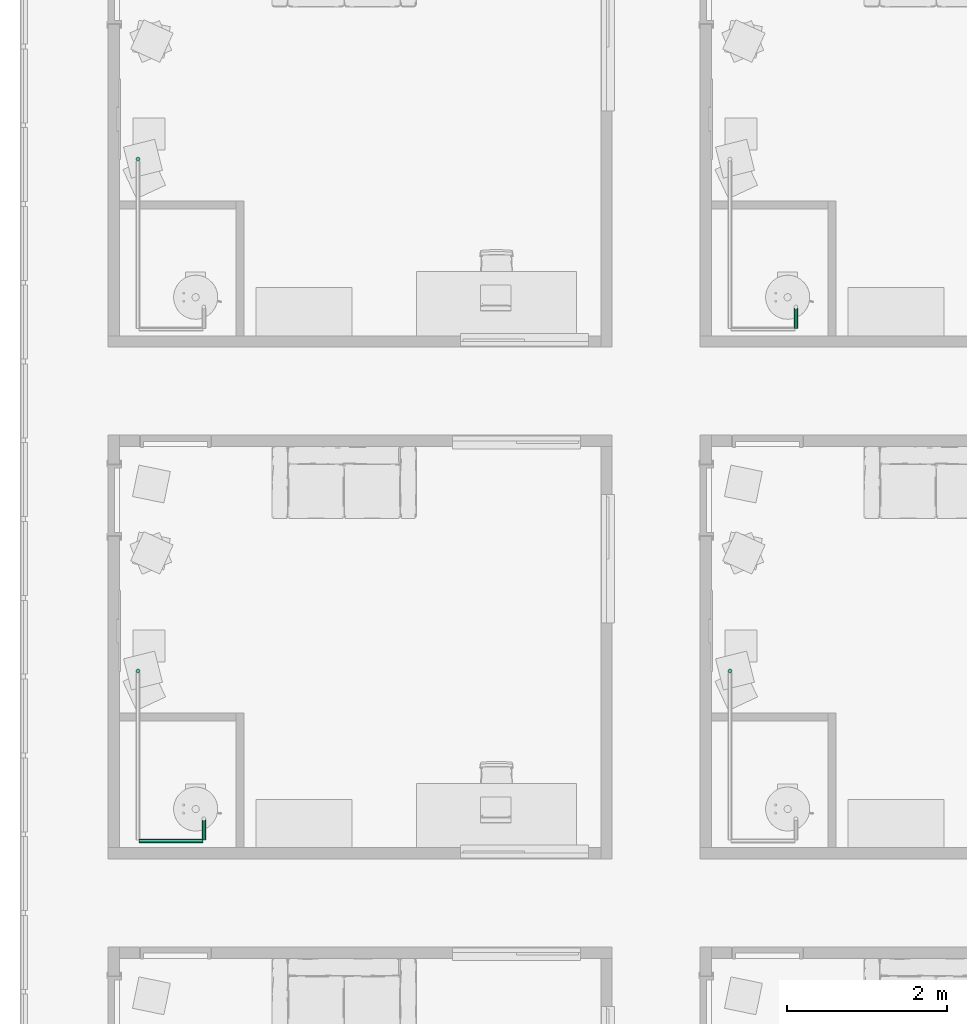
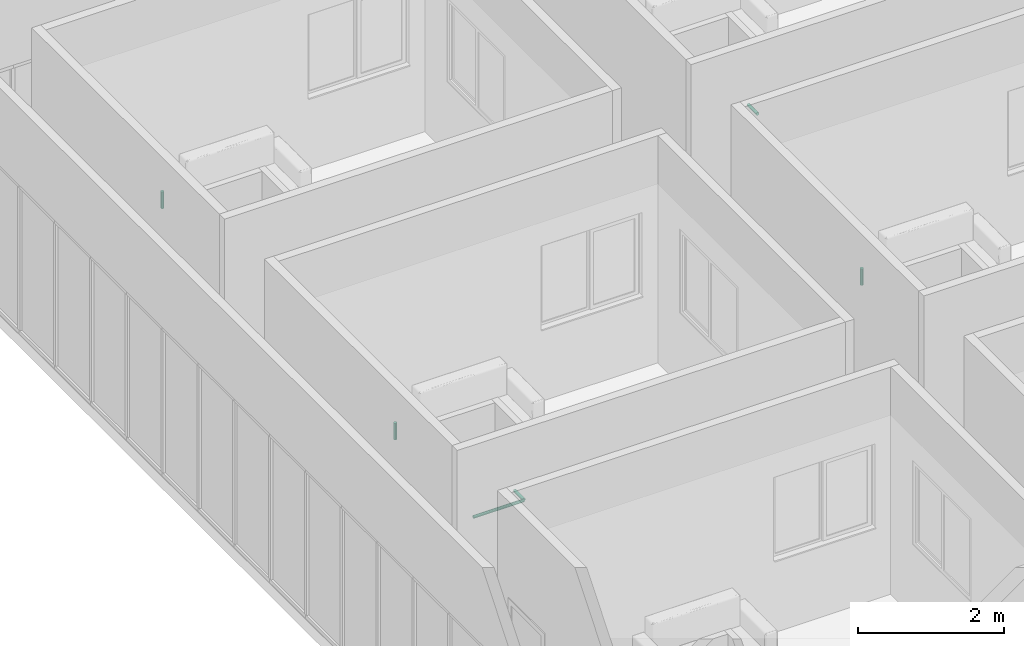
# One storey, part 46 of 71: 6 pipe segments.
"""IFC4 building model written with IfcOpenShell, lengths in centimetres."""

from ifc_helpers import new_model, entity, si_unit, converted_unit, derived_unit, direction, frame, origin, place, context, subcontext, project, spatial, arc, indexed_curve, outline, extrude, type_object, element, save


model = new_model("IFC4")

# Units and contexts
model_context = context("Model", 3, precision=0.001, world=origin(), true_north=direction((6.123233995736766e-17, 1.0)))
body_context = subcontext(model_context, "Body", "Model", "MODEL_VIEW")
ifc_project = project(units=[si_unit("LENGTHUNIT", "METRE", prefix="CENTI"), si_unit("AREAUNIT", "SQUARE_METRE"), si_unit("VOLUMEUNIT", "CUBIC_METRE"), derived_unit("THERMALTRANSMITTANCEUNIT", [(si_unit("MASSUNIT", "GRAM", prefix="KILO"), 1), (si_unit("THERMODYNAMICTEMPERATUREUNIT", "KELVIN"), -1), (si_unit("TIMEUNIT", "SECOND"), -3)]), converted_unit("PLANEANGLEUNIT", "DEGREE", entity("IfcPlaneAngleMeasure", 0.017453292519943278), si_unit("PLANEANGLEUNIT", "RADIAN"), dimensions=[0, 0, 0, 0, 0, 0, 0]), derived_unit("MASSDENSITYUNIT", [(si_unit("MASSUNIT", "GRAM", prefix="KILO"), 1), (si_unit("LENGTHUNIT", "METRE"), -3)]), derived_unit("VAPORPERMEABILITYUNIT", [(si_unit("LENGTHUNIT", "METRE"), -1), (si_unit("TIMEUNIT", "SECOND"), 1)]), derived_unit("USERDEFINED", [(si_unit("MASSUNIT", "GRAM", prefix="KILO"), 1), (si_unit("TIMEUNIT", "SECOND"), -3), (si_unit("LENGTHUNIT", "METRE"), 3), (si_unit("ELECTRICCURRENTUNIT", "AMPERE"), -2)]), derived_unit("SPECIFICHEATCAPACITYUNIT", [(si_unit("THERMODYNAMICTEMPERATUREUNIT", "KELVIN"), -1), (si_unit("LENGTHUNIT", "METRE"), 2), (si_unit("TIMEUNIT", "SECOND"), -2)]), derived_unit("THERMALCONDUCTANCEUNIT", [(si_unit("MASSUNIT", "GRAM", prefix="KILO"), 1), (si_unit("THERMODYNAMICTEMPERATUREUNIT", "KELVIN"), -1), (si_unit("TIMEUNIT", "SECOND"), -3), (si_unit("LENGTHUNIT", "METRE"), 1)]), si_unit("PRESSUREUNIT", "PASCAL"), derived_unit("MODULUSOFELASTICITYUNIT", [(si_unit("MASSUNIT", "GRAM", prefix="KILO"), 1), (si_unit("LENGTHUNIT", "METRE"), -1), (si_unit("TIMEUNIT", "SECOND"), -2)]), derived_unit("THERMALEXPANSIONCOEFFICIENTUNIT", [(si_unit("THERMODYNAMICTEMPERATUREUNIT", "KELVIN"), -1)])], contexts=[model_context])

# Site, building, storey
site_placement = place(None, origin())
site = spatial("IfcSite", under=ifc_project, at=site_placement, Name="Default", CompositionType="ELEMENT")
building_placement = place(site_placement, origin())
building = spatial("IfcBuilding", under=site, at=building_placement, Name="IDS Escape Game Building", CompositionType="ELEMENT")
storey_placement = place(building_placement, frame((0.0, 0.0, 1200.0)))
storey = spatial("IfcBuildingStorey", under=building, at=storey_placement, Name="03_Third Floor", CompositionType="ELEMENT", Elevation=1200.0)

# Pipe segments
pipe_segment_type = type_object("IfcPipeSegmentType", Name="Pipe Types:Piping Aluminum", PredefinedType="NOTDEFINED")
pipe_segment_1_placement = place(storey_placement, origin())
element("IfcPipeSegment", 1, at=pipe_segment_1_placement, inside=storey, type_object=pipe_segment_type, Name="Pipe Types:Piping Aluminum", ObjectType="Pipe Types:Piping Aluminum", PredefinedType="NOTDEFINED", context=body_context, shape_type="SweptSolid", body=[
    extrude(outline(indexed_curve([(2.412999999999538, -2.165734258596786e-13), (1.7062486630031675, 1.7062486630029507), (4.331468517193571e-13, 2.4130000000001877), (-1.706248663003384, 1.7062486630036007), (-2.4130000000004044, -2.165734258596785e-13), (-1.7062486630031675, -1.706248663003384), (4.3314685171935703e-13, -2.4129999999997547), (1.7062486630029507, -1.7062486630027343)], segments=[arc(1, 2, 3), arc(3, 4, 5), arc(5, 6, 7), arc(7, 8, 1)], self_intersect=False)), frame((31.14671687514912, 1935.2648279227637, 242.0), z_axis=(1.0, 0.0, 0.0), x_axis=(0.0, 1.0, 0.0)), (0.0, 0.0, 1.0), 79.9032831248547),
])
pipe_segment_2_placement = place(storey_placement, origin())
element("IfcPipeSegment", 2, at=pipe_segment_2_placement, inside=storey, type_object=pipe_segment_type, Name="Pipe Types:Piping Aluminum", ObjectType="Pipe Types:Piping Aluminum", PredefinedType="NOTDEFINED", context=body_context, shape_type="SweptSolid", body=[
    extrude(outline(indexed_curve([(2.412999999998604, 0.0), (1.7062486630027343, 1.7062486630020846), (1.3941914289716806e-12, 2.412999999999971), (-1.7062486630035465, 1.7062486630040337), (-2.4130000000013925, 0.0), (-1.70624866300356, -1.7062486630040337), (1.3806555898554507e-12, -2.412999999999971), (1.7062486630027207, -1.7062486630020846)], segments=[arc(1, 2, 3), arc(3, 4, 5), arc(5, 6, 7), arc(7, 8, 1)], self_intersect=False)), frame((112.15000000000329, 1936.3648279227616, 242.0), z_axis=(0.0, 1.0, 0.0), x_axis=(-1.0, 0.0, 0.0)), (0.0, 0.0, 1.0), 25.435172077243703),
])
pipe_segment_3_placement = place(storey_placement, origin())
element("IfcPipeSegment", 3, at=pipe_segment_3_placement, inside=storey, type_object=pipe_segment_type, Name="Pipe Types:Piping Aluminum", ObjectType="Pipe Types:Piping Aluminum", PredefinedType="NOTDEFINED", context=body_context, shape_type="SweptSolid", body=[
    extrude(outline(indexed_curve([(2.4130000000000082, 0.0), (1.706248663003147, 1.7062486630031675), (-3.383959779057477e-15, 2.412999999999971), (-1.7062486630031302, 1.7062486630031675), (-2.412999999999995, 0.0), (-1.7062486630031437, -1.7062486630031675), (-6.767919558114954e-15, -2.412999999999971), (1.7062486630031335, -1.7062486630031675)], segments=[arc(1, 2, 3), arc(3, 4, 5), arc(5, 6, 7), arc(7, 8, 1)], self_intersect=False)), frame((30.046716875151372, 2147.2648279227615, 244.09999999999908), z_axis=(0.0, 0.0, 1.0), x_axis=(-1.0, 0.0, 0.0)), (0.0, 0.0, 1.0), 27.90000000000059),
])
pipe_segment_4_placement = place(storey_placement, origin())
element("IfcPipeSegment", 4, at=pipe_segment_4_placement, inside=storey, type_object=pipe_segment_type, Name="Pipe Types:Piping Aluminum", ObjectType="Pipe Types:Piping Aluminum", PredefinedType="NOTDEFINED", context=body_context, shape_type="SweptSolid", body=[
    extrude(outline(indexed_curve([(2.412999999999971, 0.0), (1.7062486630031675, 1.7062486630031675), (0.0, 2.412999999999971), (-1.7062486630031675, 1.7062486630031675), (-2.412999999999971, 0.0), (-1.7062486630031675, -1.7062486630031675), (0.0, -2.412999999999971), (1.7062486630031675, -1.7062486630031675)], segments=[arc(1, 2, 3), arc(3, 4, 5), arc(5, 6, 7), arc(7, 8, 1)], self_intersect=False)), frame((768.0467168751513, 2147.264827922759, 244.09999999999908), z_axis=(0.0, 0.0, 1.0), x_axis=(-1.0, 0.0, 0.0)), (0.0, 0.0, 1.0), 27.90000000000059),
])
pipe_segment_5_placement = place(storey_placement, origin())
element("IfcPipeSegment", 5, at=pipe_segment_5_placement, inside=storey, type_object=pipe_segment_type, Name="Pipe Types:Piping Aluminum", ObjectType="Pipe Types:Piping Aluminum", PredefinedType="NOTDEFINED", context=body_context, shape_type="SweptSolid", body=[
    extrude(outline(indexed_curve([(2.4130000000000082, 4.331468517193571e-13), (1.706248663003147, 1.7062486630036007), (-3.383959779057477e-15, 2.4130000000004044), (-1.7062486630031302, 1.7062486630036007), (-2.412999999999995, 4.331468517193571e-13), (-1.7062486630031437, -1.7062486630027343), (-6.767919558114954e-15, -2.412999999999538), (1.7062486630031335, -1.7062486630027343)], segments=[arc(1, 2, 3), arc(3, 4, 5), arc(5, 6, 7), arc(7, 8, 1)], self_intersect=False)), frame((30.046716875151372, 2785.264827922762, 244.09999999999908), z_axis=(0.0, 0.0, 1.0), x_axis=(-1.0, 0.0, 0.0)), (0.0, 0.0, 1.0), 27.90000000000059),
])
pipe_segment_6_placement = place(storey_placement, origin())
element("IfcPipeSegment", 6, at=pipe_segment_6_placement, inside=storey, type_object=pipe_segment_type, Name="Pipe Types:Piping Aluminum", ObjectType="Pipe Types:Piping Aluminum", PredefinedType="NOTDEFINED", context=body_context, shape_type="SweptSolid", body=[
    extrude(outline(indexed_curve([(2.4129999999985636, 0.0), (1.7062486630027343, 1.7062486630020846), (1.4077272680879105e-12, 2.412999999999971), (-1.7062486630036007, 1.7062486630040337), (-2.4130000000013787, 0.0), (-1.7062486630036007, -1.7062486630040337), (1.4077272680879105e-12, -2.412999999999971), (1.7062486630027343, -1.7062486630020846)], segments=[arc(1, 2, 3), arc(3, 4, 5), arc(5, 6, 7), arc(7, 8, 1)], self_intersect=False)), frame((850.1500000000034, 2574.36482792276, 242.0), z_axis=(0.0, 1.0, 0.0), x_axis=(-1.0, 0.0, 0.0)), (0.0, 0.0, 1.0), 25.43517207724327),
])

save(model, "model.ifc")
